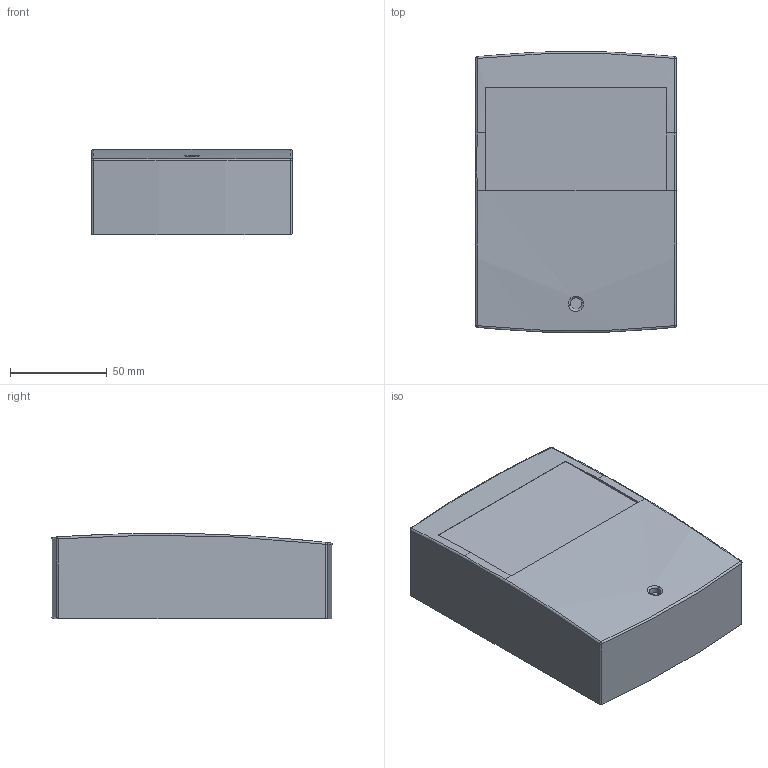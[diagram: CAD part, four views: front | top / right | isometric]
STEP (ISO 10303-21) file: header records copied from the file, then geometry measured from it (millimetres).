
FILE_DESCRIPTION (( 'STEP AP214' ), '1' );
FILE_NAME ('BWC330_Pro_modul_rozszerzajacy_9033001_0_3D_AFRISO.STEP', '2026-06-29T06:55:52', ( '' ), ( '' ), 'SwSTEP 2.0', 'SolidWorks 2024', '' );
FILE_SCHEMA (( 'AUTOMOTIVE_DESIGN' ));
Length unit declared in the file: millimetre
Products named in the file (1): BWC330_Pro_modul_rozszerzajacy_9033001_0_3D_AFRISO
Bounding box: 104 x 145.23 x 44 mm (x, y, z)
Volume: 634925.9 mm3; surface area: 50581.1 mm2
Topology: 1 solids, 1 shells, 51 faces, 124 edges, 76 vertices
Faces by surface type: cylinder 17, plane 17, bspline 12, sphere 5
Entity records: 2086 total; most frequent: CARTESIAN_POINT 962, ORIENTED_EDGE 244, DIRECTION 204, EDGE_CURVE 122, AXIS2_PLACEMENT_3D 76, VERTEX_POINT 76, EDGE_LOOP 54, VECTOR 52
